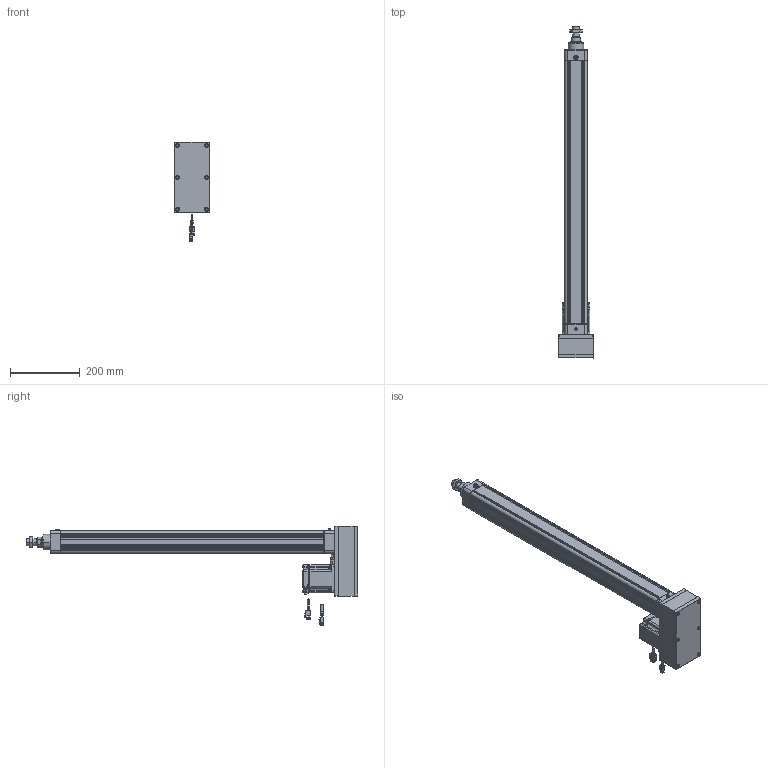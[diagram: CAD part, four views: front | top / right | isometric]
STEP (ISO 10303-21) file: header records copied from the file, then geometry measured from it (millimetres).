
FILE_DESCRIPTION((''),'2;1');
FILE_NAME('HE50-D-100-X1_ASM','2020-04-07T',('ASUS20200'),(''),'CREO PARAMETRIC BY PTC INC, 2014190','CREO PARAMETRIC BY PTC INC, 2014190','');
FILE_SCHEMA(('CONFIG_CONTROL_DESIGN'));
Length unit declared in the file: millimetre
Products named in the file (27): HE50-D-P-001-X1; HE50-D-P-002-X1; HE50-D-P-003-X1; 6301ZZ; LGLM-M8-22; SLM-01; YZ-M6X1; HE50-P-010-X1-400W; _MHMF082L1A2; _CABLE_MOTOR_TOP_05; _MOTOR_CONNECTOR_2; _CABLE_BRAKE_TOP_05; _MHMF_CONNECTOR_9_PIN_A6; MHMF082L1A2M2_1_ASM; TD-6; M6X25; LM-M6X1; JX6X6X20; M6X25-DS; LM-M6-15; HE50-P-012-X1; HE50-P-013-X1; M6X60; HE50-D-P-005-X1; HE50-D-P-004-X1; HE50-D-P-008-X1; HE50-D-100-X1_ASM
Assembly tree (48 placements, depth 3):
  HE50-D-100-X1_ASM
    HE50-D-P-001-X1
    HE50-D-P-002-X1
    HE50-D-P-003-X1
    6301ZZ
    LGLM-M8-22  x8
    SLM-01
    YZ-M6X1
    HE50-P-010-X1-400W
    MHMF082L1A2M2_1_ASM
      _MHMF082L1A2
      _CABLE_MOTOR_TOP_05
      _MOTOR_CONNECTOR_2
      _CABLE_BRAKE_TOP_05
      _MHMF_CONNECTOR_9_PIN_A6
    TD-6  x4
    M6X25  x4
    LM-M6X1  x5
    JX6X6X20
    M6X25-DS
    LM-M6-15
    HE50-P-012-X1
    HE50-P-013-X1
    M6X60  x6
    HE50-D-P-005-X1
    HE50-D-P-004-X1
    HE50-D-P-008-X1
Bounding box: 100 x 948.5 x 283.65 mm (x, y, z)
Volume: 2704940 mm3; surface area: 769785.6 mm2
Topology: 47 solids, 74 shells, 2788 faces, 6672 edges, 4118 vertices
Faces by surface type: plane 1227, cylinder 739, cone 679, torus 110, sphere 30, bspline 3
Entity records: 66806 total; most frequent: CARTESIAN_POINT 12811, DIRECTION 11715, ORIENTED_EDGE 10664, EDGE_CURVE 5376, AXIS2_PLACEMENT_3D 4311, VERTEX_POINT 3337, VECTOR 3093, LINE 3093
